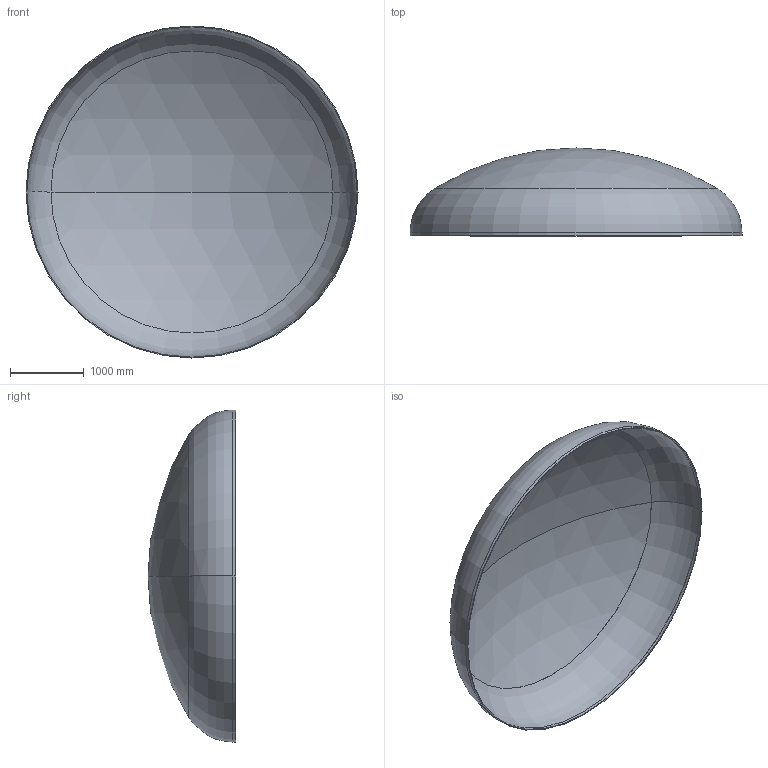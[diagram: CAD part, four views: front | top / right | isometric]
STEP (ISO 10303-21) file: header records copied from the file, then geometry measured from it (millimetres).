
FILE_DESCRIPTION (( 'STEP AP203' ), '1' );
FILE_NAME ('DIN 28013 Korbbogenform_-_Boden DIN 28013 - 4500 x 40 - I - s=12.step', '2016-07-01T23:02:52', ( '' ), ( '' ), 'SwSTEP 2.0', 'SolidWorks 2013', '' );
FILE_SCHEMA (( 'CONFIG_CONTROL_DESIGN' ));
Length unit declared in the file: millimetre
Products named in the file (1): DIN 28013 Korbbogenform_-_Boden DIN 28013 - 4500 x 40 - I - s=12
Bounding box: 4500 x 1190.66 x 4500 mm (x, y, z)
Volume: 270332329.6 mm3; surface area: 45224865.1 mm2
Topology: 1 solids, 1 shells, 13 faces, 24 edges, 14 vertices
Faces by surface type: torus 4, cylinder 4, sphere 4, plane 1
Entity records: 407 total; most frequent: DIRECTION 72, CARTESIAN_POINT 52, ORIENTED_EDGE 48, AXIS2_PLACEMENT_3D 34, EDGE_CURVE 24, CIRCLE 20, EDGE_LOOP 14, VERTEX_POINT 14
